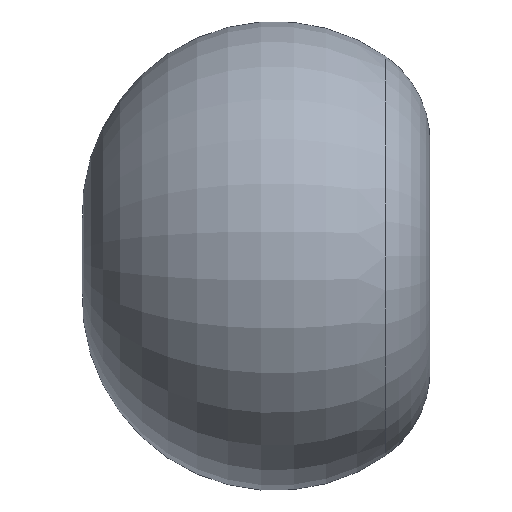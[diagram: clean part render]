
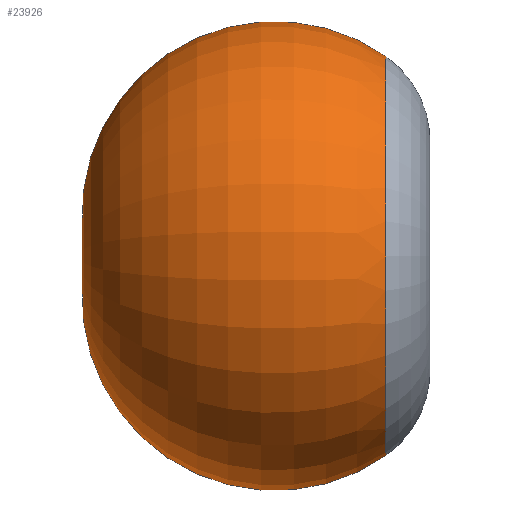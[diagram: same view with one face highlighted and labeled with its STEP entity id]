
A CAD part, left-side view. The second image highlights one B-rep face of the part: STEP entity #23926.
In plain terms, the highlighted toroidal (fillet/blend) face has major radius 400 mm and minor radius 1857.85 mm.
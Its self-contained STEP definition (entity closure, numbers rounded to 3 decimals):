
#19810 = ORIENTED_EDGE ( 'NONE', *, *, #110357, .F. ) ;
#19812 = ORIENTED_EDGE ( 'NONE', *, *, #110356, .T. ) ;
#19814 = ORIENTED_EDGE ( 'NONE', *, *, #110361, .F. ) ;
#23926 = ADVANCED_FACE ( 'NONE', ( #103627 ), #52295, .T. ) ;
#31619 = CARTESIAN_POINT ( 'NONE',  ( 0., 550., -400. ) ) ;
#31621 = DIRECTION ( 'NONE',  ( -1., 0., 0. ) ) ;
#31622 = DIRECTION ( 'NONE',  ( 0., 0., 1. ) ) ;
#31624 = CARTESIAN_POINT ( 'NONE',  ( 0., 550., 400. ) ) ;
#31625 = DIRECTION ( 'NONE',  ( 1., 0., 0. ) ) ;
#31626 = DIRECTION ( 'NONE',  ( 0., 0., -1. ) ) ;
#31652 = CARTESIAN_POINT ( 'NONE',  ( 0., -515.618, 0. ) ) ;
#31653 = DIRECTION ( 'NONE',  ( 0., -1., 0. ) ) ;
#31654 = DIRECTION ( 'NONE',  ( 0., 0., -1. ) ) ;
#32994 = AXIS2_PLACEMENT_3D ( 'NONE', #31624, #31625, #31626 ) ;
#33085 = CIRCLE ( 'NONE', #32994, 1857.848 ) ;
#33098 = CIRCLE ( 'NONE', #33119, 1857.848 ) ;
#33119 = AXIS2_PLACEMENT_3D ( 'NONE', #31619, #31621, #31622 ) ;
#33430 = AXIS2_PLACEMENT_3D ( 'NONE', #31652, #31653, #31654 ) ;
#33716 = CIRCLE ( 'NONE', #33430, 1921.86 ) ;
#44358 = EDGE_LOOP ( 'NONE', ( #19810, #19812, #19814 ) ) ;
#52295 = TOROIDAL_SURFACE ( 'NONE', #52298, 400., 1857.848 ) ;
#52298 = AXIS2_PLACEMENT_3D ( 'NONE', #103632, #103629, #103634 ) ;
#83752 = CARTESIAN_POINT ( 'NONE',  ( 0., -515.618, 1921.86 ) ) ;
#83762 = CARTESIAN_POINT ( 'NONE',  ( 0., -515.618, -1921.86 ) ) ;
#83763 = CARTESIAN_POINT ( 'NONE',  ( 0., 2364.276, 0. ) ) ;
#96115 = VERTEX_POINT ( 'NONE', #83752 ) ;
#96127 = VERTEX_POINT ( 'NONE', #83762 ) ;
#96129 = VERTEX_POINT ( 'NONE', #83763 ) ;
#103627 = FACE_OUTER_BOUND ( 'NONE', #44358, .T. ) ;
#103629 = DIRECTION ( 'NONE',  ( 0., -1., 0. ) ) ;
#103632 = CARTESIAN_POINT ( 'NONE',  ( 0., 550., 0. ) ) ;
#103634 = DIRECTION ( 'NONE',  ( 0., 0., -1. ) ) ;
#110356 = EDGE_CURVE ( 'NONE', #96129, #96127, #33098, .T. ) ;
#110357 = EDGE_CURVE ( 'NONE', #96129, #96115, #33085, .T. ) ;
#110361 = EDGE_CURVE ( 'NONE', #96115, #96127, #33716, .T. ) ;
